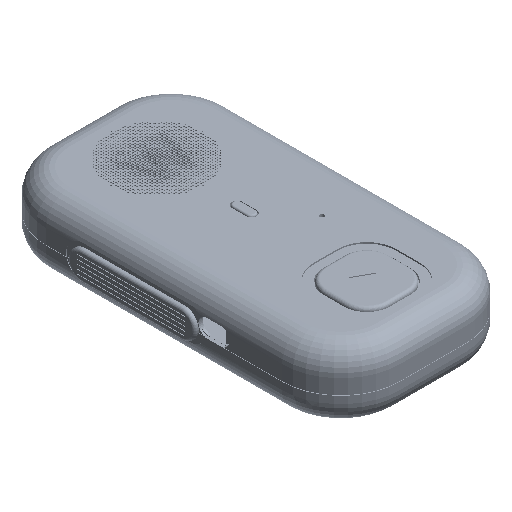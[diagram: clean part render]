
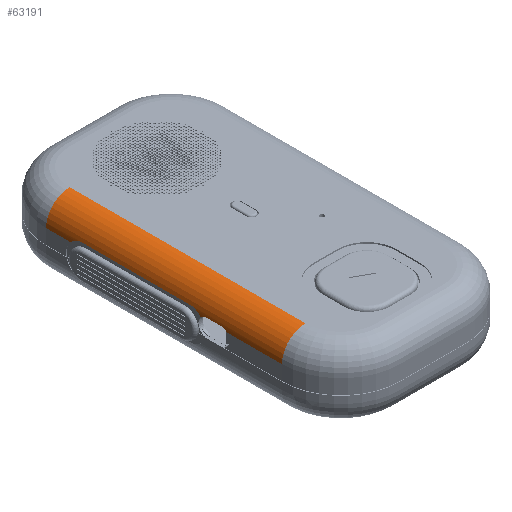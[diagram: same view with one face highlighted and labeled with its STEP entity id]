
A CAD part, isometric view. The second image highlights one B-rep face of the part: STEP entity #63191.
In plain terms, the highlighted cylindrical face has radius 10 mm (diameter 20 mm), a partial arc.
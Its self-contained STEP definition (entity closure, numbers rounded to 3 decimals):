
#3890=B_SPLINE_CURVE_WITH_KNOTS('',3,(#88697,#88698,#88699,#88700,#88701,
#88702,#88703,#88704),.UNSPECIFIED.,.F.,.F.,(4,2,2,4),(1.069,
1.199,1.33,1.331),.UNSPECIFIED.);
#3918=B_SPLINE_CURVE_WITH_KNOTS('',3,(#90027,#90028,#90029,#90030,#90031,
#90032),.UNSPECIFIED.,.F.,.F.,(4,2,4),(0.826,0.938,
1.069),.UNSPECIFIED.);
#3919=B_SPLINE_CURVE_WITH_KNOTS('',3,(#90072,#90073,#90074,#90075,#90076,
#90077,#90078,#90079),.UNSPECIFIED.,.F.,.F.,(4,2,2,4),(2.248,
2.36,2.563,2.671),.UNSPECIFIED.);
#3920=B_SPLINE_CURVE_WITH_KNOTS('',3,(#90091,#90092,#90093,#90094,#90095,
#90096,#90097,#90098),.UNSPECIFIED.,.F.,.F.,(4,2,2,4),(1.626,
1.751,1.954,2.066),.UNSPECIFIED.);
#8531=FACE_OUTER_BOUND('',#11790,.T.);
#11790=EDGE_LOOP('',(#45516,#45517,#45518,#45519,#45520,#45521,#45522,#45523,
#45524,#45525,#45526));
#17389=LINE('',#88680,#22087);
#17750=LINE('',#90050,#22448);
#17756=LINE('',#90082,#22454);
#17757=LINE('',#90086,#22455);
#17758=LINE('',#90090,#22456);
#22087=VECTOR('',#72573,10.);
#22448=VECTOR('',#73710,10.);
#22454=VECTOR('',#73732,10.);
#22455=VECTOR('',#73735,10.);
#22456=VECTOR('',#73738,10.);
#26835=CIRCLE('',#66873,10.);
#26836=CIRCLE('',#66874,10.);
#28335=VERTEX_POINT('',#88677);
#28336=VERTEX_POINT('',#88679);
#28339=VERTEX_POINT('',#88695);
#28697=VERTEX_POINT('',#90026);
#28702=VERTEX_POINT('',#90047);
#28703=VERTEX_POINT('',#90049);
#28713=VERTEX_POINT('',#90081);
#28714=VERTEX_POINT('',#90083);
#28715=VERTEX_POINT('',#90085);
#28716=VERTEX_POINT('',#90087);
#28717=VERTEX_POINT('',#90089);
#34647=EDGE_CURVE('',#28336,#28335,#17389,.T.);
#34653=EDGE_CURVE('',#28335,#28339,#3890,.T.);
#35214=EDGE_CURVE('',#28697,#28336,#3918,.T.);
#35223=EDGE_CURVE('',#28703,#28702,#17750,.T.);
#35235=EDGE_CURVE('',#28702,#28697,#3919,.T.);
#35236=EDGE_CURVE('',#28339,#28713,#17756,.T.);
#35237=EDGE_CURVE('',#28714,#28713,#26835,.T.);
#35238=EDGE_CURVE('',#28714,#28715,#17757,.T.);
#35239=EDGE_CURVE('',#28715,#28716,#26836,.T.);
#35240=EDGE_CURVE('',#28716,#28717,#17758,.T.);
#35241=EDGE_CURVE('',#28717,#28703,#3920,.T.);
#45516=ORIENTED_EDGE('',*,*,#35214,.T.);
#45517=ORIENTED_EDGE('',*,*,#34647,.T.);
#45518=ORIENTED_EDGE('',*,*,#34653,.T.);
#45519=ORIENTED_EDGE('',*,*,#35236,.T.);
#45520=ORIENTED_EDGE('',*,*,#35237,.F.);
#45521=ORIENTED_EDGE('',*,*,#35238,.T.);
#45522=ORIENTED_EDGE('',*,*,#35239,.T.);
#45523=ORIENTED_EDGE('',*,*,#35240,.T.);
#45524=ORIENTED_EDGE('',*,*,#35241,.T.);
#45525=ORIENTED_EDGE('',*,*,#35223,.T.);
#45526=ORIENTED_EDGE('',*,*,#35235,.T.);
#62314=CYLINDRICAL_SURFACE('',#66872,10.);
#63191=ADVANCED_FACE('',(#8531),#62314,.T.);
#66872=AXIS2_PLACEMENT_3D('',#90080,#73730,#73731);
#66873=AXIS2_PLACEMENT_3D('',#90084,#73733,#73734);
#66874=AXIS2_PLACEMENT_3D('',#90088,#73736,#73737);
#72573=DIRECTION('',(0.,-1.,0.));
#73710=DIRECTION('',(0.,-1.,0.));
#73730=DIRECTION('center_axis',(0.,1.,0.));
#73731=DIRECTION('ref_axis',(0.707,0.,-0.707));
#73732=DIRECTION('',(0.,-1.,0.));
#73733=DIRECTION('center_axis',(0.,-1.,0.));
#73734=DIRECTION('ref_axis',(0.,0.,-1.));
#73735=DIRECTION('',(0.,1.,0.));
#73736=DIRECTION('center_axis',(0.,-1.,0.));
#73737=DIRECTION('ref_axis',(0.,0.,-1.));
#73738=DIRECTION('',(0.,-1.,0.));
#88677=CARTESIAN_POINT('',(38.947,-24.189,8.976));
#88679=CARTESIAN_POINT('',(38.947,-17.839,8.976));
#88680=CARTESIAN_POINT('',(38.947,-25.,8.976));
#88695=CARTESIAN_POINT('',(39.,-26.642,10.));
#88697=CARTESIAN_POINT('Ctrl Pts',(38.947,-24.189,8.976));
#88698=CARTESIAN_POINT('Ctrl Pts',(38.947,-24.624,8.976));
#88699=CARTESIAN_POINT('Ctrl Pts',(38.958,-25.088,9.064));
#88700=CARTESIAN_POINT('Ctrl Pts',(38.985,-25.939,9.418));
#88701=CARTESIAN_POINT('Ctrl Pts',(39.,-26.328,9.685));
#88702=CARTESIAN_POINT('Ctrl Pts',(39.,-26.637,9.995));
#88703=CARTESIAN_POINT('Ctrl Pts',(39.,-26.639,9.998));
#88704=CARTESIAN_POINT('Ctrl Pts',(39.,-26.642,10.));
#90026=CARTESIAN_POINT('',(38.999,-15.53,9.863));
#90027=CARTESIAN_POINT('Ctrl Pts',(38.999,-15.53,9.863));
#90028=CARTESIAN_POINT('Ctrl Pts',(38.996,-15.812,9.61));
#90029=CARTESIAN_POINT('Ctrl Pts',(38.983,-16.15,9.392));
#90030=CARTESIAN_POINT('Ctrl Pts',(38.958,-16.941,9.064));
#90031=CARTESIAN_POINT('Ctrl Pts',(38.947,-17.404,8.976));
#90032=CARTESIAN_POINT('Ctrl Pts',(38.947,-17.839,8.976));
#90047=CARTESIAN_POINT('',(38.78,-11.63,7.914));
#90049=CARTESIAN_POINT('',(38.78,35.63,7.914));
#90050=CARTESIAN_POINT('',(38.78,-25.,7.914));
#90072=CARTESIAN_POINT('Ctrl Pts',(38.78,-11.63,7.914));
#90073=CARTESIAN_POINT('Ctrl Pts',(38.791,-12.021,7.968));
#90074=CARTESIAN_POINT('Ctrl Pts',(38.81,-12.414,8.057));
#90075=CARTESIAN_POINT('Ctrl Pts',(38.875,-13.487,8.405));
#90076=CARTESIAN_POINT('Ctrl Pts',(38.929,-14.139,8.745));
#90077=CARTESIAN_POINT('Ctrl Pts',(38.981,-14.977,9.351));
#90078=CARTESIAN_POINT('Ctrl Pts',(38.995,-15.263,9.594));
#90079=CARTESIAN_POINT('Ctrl Pts',(38.999,-15.53,9.863));
#90080=CARTESIAN_POINT('Origin',(29.,-25.,10.));
#90081=CARTESIAN_POINT('',(39.,-50.,10.));
#90082=CARTESIAN_POINT('',(39.,-25.,10.));
#90083=CARTESIAN_POINT('',(29.,-50.,0.));
#90084=CARTESIAN_POINT('Origin',(29.,-50.,10.));
#90085=CARTESIAN_POINT('',(29.,50.,0.));
#90086=CARTESIAN_POINT('',(29.,-25.,0.));
#90087=CARTESIAN_POINT('',(39.,50.,10.));
#90088=CARTESIAN_POINT('Origin',(29.,50.,10.));
#90089=CARTESIAN_POINT('',(39.,39.662,10.));
#90090=CARTESIAN_POINT('',(39.,-25.,10.));
#90091=CARTESIAN_POINT('Ctrl Pts',(39.,39.662,10.));
#90092=CARTESIAN_POINT('Ctrl Pts',(39.,39.357,9.675));
#90093=CARTESIAN_POINT('Ctrl Pts',(38.984,39.025,9.386));
#90094=CARTESIAN_POINT('Ctrl Pts',(38.929,38.139,8.745));
#90095=CARTESIAN_POINT('Ctrl Pts',(38.875,37.487,8.405));
#90096=CARTESIAN_POINT('Ctrl Pts',(38.81,36.414,8.057));
#90097=CARTESIAN_POINT('Ctrl Pts',(38.791,36.021,7.968));
#90098=CARTESIAN_POINT('Ctrl Pts',(38.78,35.63,7.914));
